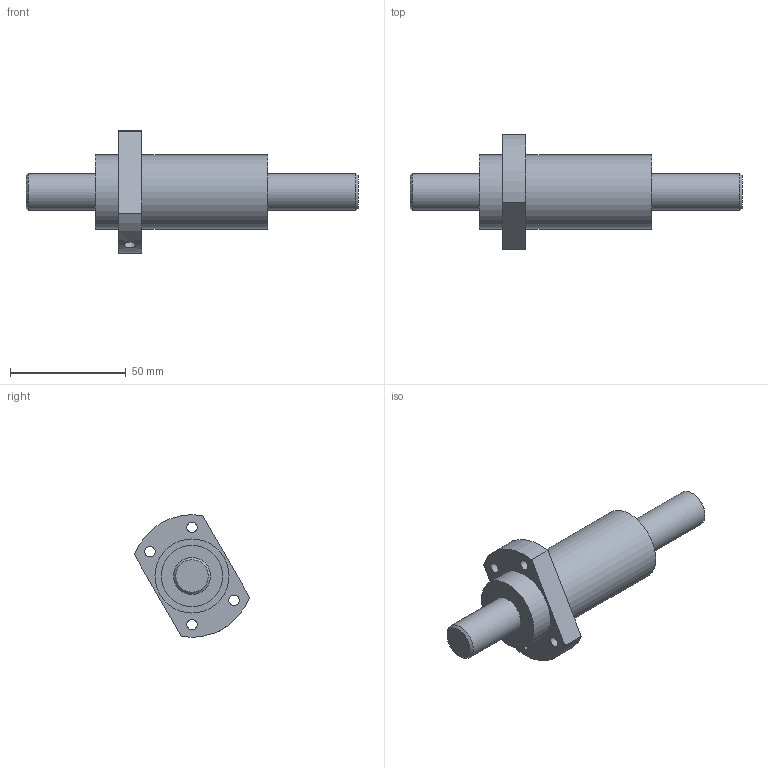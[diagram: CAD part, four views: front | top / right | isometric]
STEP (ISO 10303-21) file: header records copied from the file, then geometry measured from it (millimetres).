
FILE_DESCRIPTION (( 'STEP AP203' ), '1' );
FILE_NAME ('SFY01632-3.6.STEP', '2023-06-01T05:11:11', ( '' ), ( '' ), 'SwSTEP 2.0', 'SolidWorks 2022', '' );
FILE_SCHEMA (( 'CONFIG_CONTROL_DESIGN' ));
Length unit declared in the file: millimetre
Products named in the file (1): SFY01632-3.6
Bounding box: 143.5 x 49.77 x 53 mm (x, y, z)
Volume: 81526.9 mm3; surface area: 26863.1 mm2
Topology: 4 solids, 4 shells, 51 faces, 98 edges, 68 vertices
Faces by surface type: cylinder 26, plane 23, cone 2
Full cylindrical faces by diameter (mm): 3 x1, 4.5 x4, 5 x1, 16 x4, 26 x4, 26.5 x4, 28 x4, 32 x2
Entity records: 1334 total; most frequent: CARTESIAN_POINT 299, DIRECTION 216, ORIENTED_EDGE 124, EDGE_LOOP 106, AXIS2_PLACEMENT_3D 104, FACE_OUTER_BOUND 75, EDGE_CURVE 62, VERTEX_POINT 58
